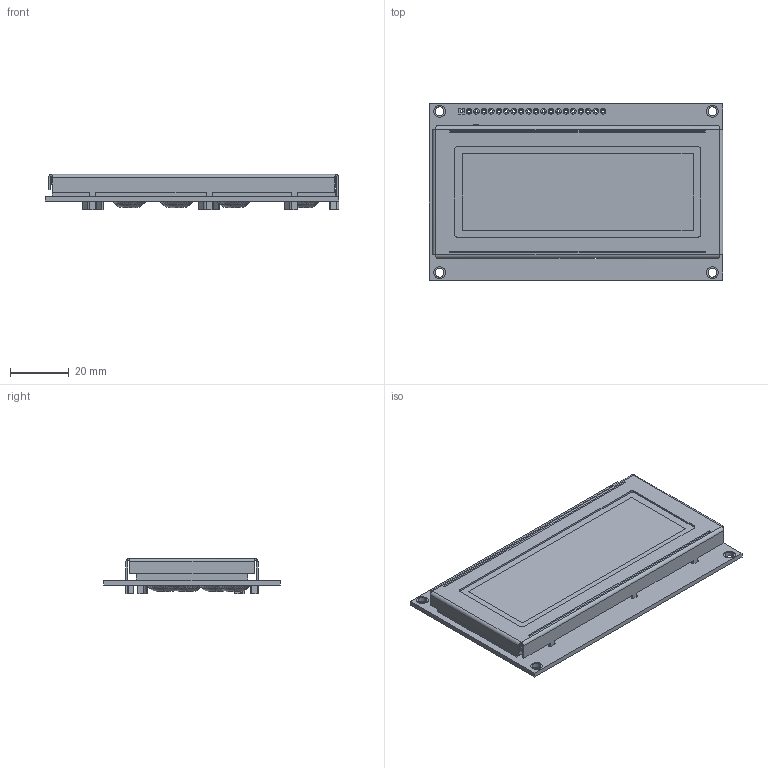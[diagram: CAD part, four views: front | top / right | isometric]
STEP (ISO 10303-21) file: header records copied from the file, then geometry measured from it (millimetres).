
FILE_DESCRIPTION (( 'STEP AP214' ), '1' );
FILE_NAME ('ERM19264-3.STEP', '2024-08-21T07:11:53', ( '微软用户' ), ( '微软中国' ), 'SwSTEP 2.0', 'SolidWorks 2023', '' );
FILE_SCHEMA (( 'AUTOMOTIVE_DESIGN' ));
Length unit declared in the file: millimetre
Products named in the file (3): ERM19264-1_PCB; ERM19264-3; BEZEL
Assembly tree (2 placements, depth 2):
  ERM19264-3
    ERM19264-1_PCB
    BEZEL
Bounding box: 100 x 60 x 12 mm (x, y, z)
Volume: 38489.1 mm3; surface area: 29283 mm2
Topology: 66 solids, 66 shells, 1293 faces, 3343 edges, 2230 vertices
Faces by surface type: plane 708, bspline 484, cylinder 93, torus 8
Entity records: 61993 total; most frequent: CARTESIAN_POINT 29299, ORIENTED_EDGE 6686, DIRECTION 4301, EDGE_CURVE 3343, VERTEX_POINT 2230, LINE 2081, VECTOR 2081, EDGE_LOOP 1441
